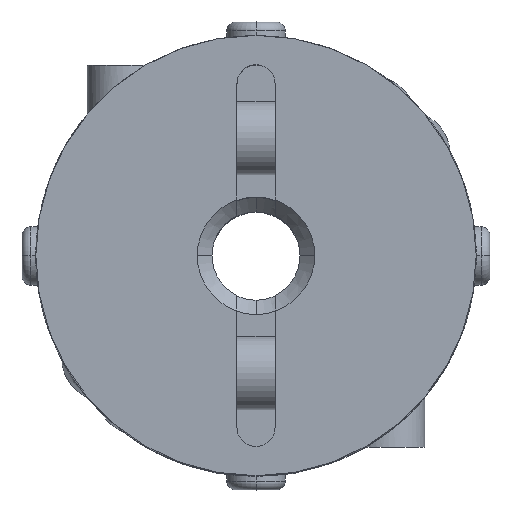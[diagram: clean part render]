
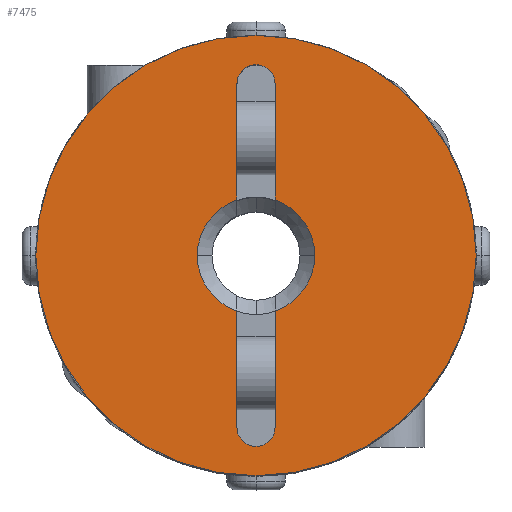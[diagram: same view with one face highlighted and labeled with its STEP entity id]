
A CAD part, top view. The second image highlights one B-rep face of the part: STEP entity #7475.
In plain terms, the highlighted planar face has unit normal (0, 0, 1).
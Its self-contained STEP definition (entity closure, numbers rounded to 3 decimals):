
#1033=CARTESIAN_POINT('',(-7.5,0.,9.0));
#1034=VERTEX_POINT('',#1033);
#1041=CARTESIAN_POINT('',(7.5,0.0,9.0));
#1042=VERTEX_POINT('',#1041);
#1043=CARTESIAN_POINT('',(0.0,0.0,9.0));
#1044=DIRECTION('',(0.0,0.0,-1.0));
#1045=DIRECTION('',(1.0,0.0,0.0));
#1046=AXIS2_PLACEMENT_3D('',#1043,#1044,#1045);
#1047=CIRCLE('',#1046,7.5);
#1048=EDGE_CURVE('',#1034,#1042,#1047,.T.);
#1400=CARTESIAN_POINT('',(2.0,0.,9.0));
#1401=VERTEX_POINT('',#1400);
#1408=CARTESIAN_POINT('',(0.65,1.891,9.0));
#1409=VERTEX_POINT('',#1408);
#1410=CARTESIAN_POINT('',(0.0,0.0,9.0));
#1411=DIRECTION('',(0.0,0.0,1.0));
#1412=DIRECTION('',(-1.0,0.0,0.0));
#1413=AXIS2_PLACEMENT_3D('',#1410,#1411,#1412);
#1414=CIRCLE('',#1413,2.0);
#1415=EDGE_CURVE('',#1401,#1409,#1414,.T.);
#1439=CARTESIAN_POINT('',(-2.0,0.,9.0));
#1440=VERTEX_POINT('',#1439);
#1448=CARTESIAN_POINT('',(-0.65,1.891,9.0));
#1449=VERTEX_POINT('',#1448);
#1463=CARTESIAN_POINT('',(0.0,0.0,9.0));
#1464=DIRECTION('',(0.0,0.0,1.0));
#1465=DIRECTION('',(-1.0,0.0,0.0));
#1466=AXIS2_PLACEMENT_3D('',#1463,#1464,#1465);
#1467=CIRCLE('',#1466,2.0);
#1468=EDGE_CURVE('',#1449,#1440,#1467,.T.);
#1478=CARTESIAN_POINT('',(0.46,6.31,9.0));
#1479=VERTEX_POINT('',#1478);
#1488=CARTESIAN_POINT('',(-0.65,5.85,9.0));
#1489=VERTEX_POINT('',#1488);
#1490=CARTESIAN_POINT('',(0.,5.85,9.0));
#1491=DIRECTION('',(0.0,0.0,1.0));
#1492=DIRECTION('',(0.707,0.707,0.0));
#1493=AXIS2_PLACEMENT_3D('',#1490,#1491,#1492);
#1494=CIRCLE('',#1493,0.65);
#1495=EDGE_CURVE('',#1479,#1489,#1494,.T.);
#1520=CARTESIAN_POINT('',(0.46,-6.31,9.0));
#1521=VERTEX_POINT('',#1520);
#1530=CARTESIAN_POINT('',(0.65,-5.85,9.0));
#1531=VERTEX_POINT('',#1530);
#1532=CARTESIAN_POINT('',(0.,-5.85,9.0));
#1533=DIRECTION('',(0.0,0.0,1.0));
#1534=DIRECTION('',(-0.707,-0.707,0.0));
#1535=AXIS2_PLACEMENT_3D('',#1532,#1533,#1534);
#1536=CIRCLE('',#1535,0.65);
#1537=EDGE_CURVE('',#1521,#1531,#1536,.T.);
#7201=CARTESIAN_POINT('',(-0.65,-5.85,9.0));
#7202=VERTEX_POINT('',#7201);
#7209=CARTESIAN_POINT('',(0.,-5.85,9.0));
#7210=DIRECTION('',(0.0,0.0,1.0));
#7211=DIRECTION('',(-0.707,-0.707,0.0));
#7212=AXIS2_PLACEMENT_3D('',#7209,#7210,#7211);
#7213=CIRCLE('',#7212,0.65);
#7214=EDGE_CURVE('',#7202,#1521,#7213,.T.);
#7225=CARTESIAN_POINT('',(0.65,-1.891,9.0));
#7226=VERTEX_POINT('',#7225);
#7227=CARTESIAN_POINT('',(0.65,-1.891,9.0));
#7228=DIRECTION('',(0.0,-1.0,0.0));
#7229=VECTOR('',#7228,3.959);
#7230=LINE('',#7227,#7229);
#7231=EDGE_CURVE('',#7226,#1531,#7230,.T.);
#7274=CARTESIAN_POINT('',(-0.65,1.891,9.0));
#7275=DIRECTION('',(0.0,1.0,0.0));
#7276=VECTOR('',#7275,3.959);
#7277=LINE('',#7274,#7276);
#7278=EDGE_CURVE('',#1449,#1489,#7277,.T.);
#7325=CARTESIAN_POINT('',(0.65,5.85,9.0));
#7326=VERTEX_POINT('',#7325);
#7333=CARTESIAN_POINT('',(0.,5.85,9.0));
#7334=DIRECTION('',(0.0,0.0,1.0));
#7335=DIRECTION('',(0.707,0.707,0.0));
#7336=AXIS2_PLACEMENT_3D('',#7333,#7334,#7335);
#7337=CIRCLE('',#7336,0.65);
#7338=EDGE_CURVE('',#7326,#1479,#7337,.T.);
#7372=CARTESIAN_POINT('',(0.65,5.85,9.0));
#7373=DIRECTION('',(0.0,-1.0,0.0));
#7374=VECTOR('',#7373,3.959);
#7375=LINE('',#7372,#7374);
#7376=EDGE_CURVE('',#7326,#1409,#7375,.T.);
#7406=CARTESIAN_POINT('',(-0.65,-1.891,9.0));
#7407=VERTEX_POINT('',#7406);
#7421=CARTESIAN_POINT('',(-0.65,-5.85,9.0));
#7422=DIRECTION('',(0.0,1.0,0.0));
#7423=VECTOR('',#7422,3.959);
#7424=LINE('',#7421,#7423);
#7425=EDGE_CURVE('',#7202,#7407,#7424,.T.);
#7434=CARTESIAN_POINT('',(0.682,0.,9.0));
#7435=DIRECTION('',(0.0,0.0,1.0));
#7436=DIRECTION('',(1.0,0.0,0.0));
#7437=AXIS2_PLACEMENT_3D('',#7434,#7435,#7436);
#7438=PLANE('',#7437);
#7439=CARTESIAN_POINT('',(0.0,0.0,9.0));
#7440=DIRECTION('',(0.0,0.0,-1.0));
#7441=DIRECTION('',(1.0,0.0,0.0));
#7442=AXIS2_PLACEMENT_3D('',#7439,#7440,#7441);
#7443=CIRCLE('',#7442,7.5);
#7444=EDGE_CURVE('',#1042,#1034,#7443,.T.);
#7445=ORIENTED_EDGE('',*,*,#7444,.F.);
#7446=ORIENTED_EDGE('',*,*,#1048,.F.);
#7447=EDGE_LOOP('',(#7445,#7446));
#7448=FACE_OUTER_BOUND('',#7447,.T.);
#7449=ORIENTED_EDGE('',*,*,#7231,.T.);
#7450=ORIENTED_EDGE('',*,*,#1537,.F.);
#7451=ORIENTED_EDGE('',*,*,#7214,.F.);
#7452=ORIENTED_EDGE('',*,*,#7425,.T.);
#7453=CARTESIAN_POINT('',(0.0,0.0,9.0));
#7454=DIRECTION('',(0.0,0.0,1.0));
#7455=DIRECTION('',(-1.0,0.0,0.0));
#7456=AXIS2_PLACEMENT_3D('',#7453,#7454,#7455);
#7457=CIRCLE('',#7456,2.0);
#7458=EDGE_CURVE('',#1440,#7407,#7457,.T.);
#7459=ORIENTED_EDGE('',*,*,#7458,.F.);
#7460=ORIENTED_EDGE('',*,*,#1468,.F.);
#7461=ORIENTED_EDGE('',*,*,#7278,.T.);
#7462=ORIENTED_EDGE('',*,*,#1495,.F.);
#7463=ORIENTED_EDGE('',*,*,#7338,.F.);
#7464=ORIENTED_EDGE('',*,*,#7376,.T.);
#7465=ORIENTED_EDGE('',*,*,#1415,.F.);
#7466=CARTESIAN_POINT('',(0.0,0.0,9.0));
#7467=DIRECTION('',(0.0,0.0,1.0));
#7468=DIRECTION('',(-1.0,0.0,0.0));
#7469=AXIS2_PLACEMENT_3D('',#7466,#7467,#7468);
#7470=CIRCLE('',#7469,2.0);
#7471=EDGE_CURVE('',#7226,#1401,#7470,.T.);
#7472=ORIENTED_EDGE('',*,*,#7471,.F.);
#7473=EDGE_LOOP('',(#7449,#7450,#7451,#7452,#7459,#7460,#7461,#7462,#7463,#7464,#7465,#7472));
#7474=FACE_BOUND('',#7473,.T.);
#7475=ADVANCED_FACE('',(#7448,#7474),#7438,.T.);
